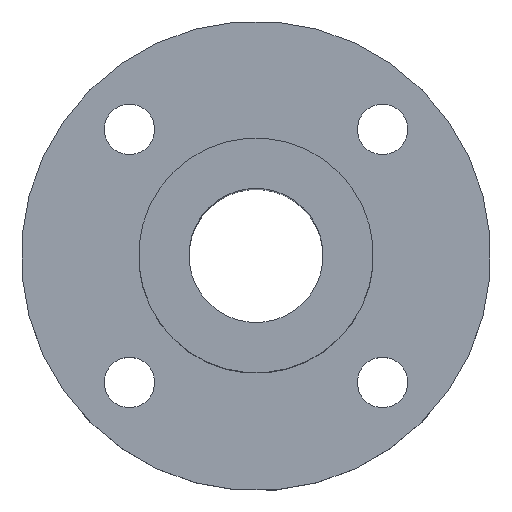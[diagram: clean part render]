
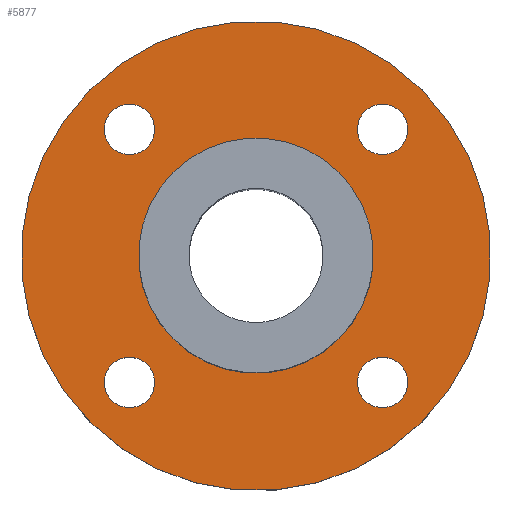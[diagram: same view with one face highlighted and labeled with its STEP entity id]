
A CAD part, top view. The second image highlights one B-rep face of the part: STEP entity #5877.
In plain terms, the highlighted planar face has unit normal (0, 0, 1).
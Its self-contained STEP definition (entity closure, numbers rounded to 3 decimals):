
#111=CIRCLE('',#6246,10.5);
#115=CIRCLE('',#6254,21.);
#116=CIRCLE('',#6256,2.25);
#117=CIRCLE('',#6257,2.25);
#118=CIRCLE('',#6258,2.25);
#119=CIRCLE('',#6259,2.25);
#525=ORIENTED_EDGE('',*,*,#2215,.F.);
#526=ORIENTED_EDGE('',*,*,#2216,.F.);
#527=ORIENTED_EDGE('',*,*,#2217,.F.);
#528=ORIENTED_EDGE('',*,*,#2218,.F.);
#529=ORIENTED_EDGE('',*,*,#2210,.T.);
#530=ORIENTED_EDGE('',*,*,#2214,.T.);
#2210=EDGE_CURVE('',#3058,#3058,#111,.F.);
#2214=EDGE_CURVE('',#3062,#3062,#115,.T.);
#2215=EDGE_CURVE('',#3063,#3063,#116,.T.);
#2216=EDGE_CURVE('',#3064,#3064,#117,.T.);
#2217=EDGE_CURVE('',#3065,#3065,#118,.T.);
#2218=EDGE_CURVE('',#3066,#3066,#119,.T.);
#3058=VERTEX_POINT('',#9269);
#3062=VERTEX_POINT('',#9281);
#3063=VERTEX_POINT('',#9284);
#3064=VERTEX_POINT('',#9286);
#3065=VERTEX_POINT('',#9288);
#3066=VERTEX_POINT('',#9290);
#4826=EDGE_LOOP('',(#525));
#4827=EDGE_LOOP('',(#526));
#4828=EDGE_LOOP('',(#527));
#4829=EDGE_LOOP('',(#528));
#4830=EDGE_LOOP('',(#529));
#4831=EDGE_LOOP('',(#530));
#5244=FACE_BOUND('',#4826,.T.);
#5245=FACE_BOUND('',#4827,.T.);
#5246=FACE_BOUND('',#4828,.T.);
#5247=FACE_BOUND('',#4829,.T.);
#5248=FACE_BOUND('',#4830,.T.);
#5249=FACE_BOUND('',#4831,.T.);
#5604=PLANE('',#6255);
#5877=ADVANCED_FACE('',(#5244,#5245,#5246,#5247,#5248,#5249),#5604,.T.);
#6246=AXIS2_PLACEMENT_3D('',#9268,#6796,#6797);
#6254=AXIS2_PLACEMENT_3D('',#9280,#6812,#6813);
#6255=AXIS2_PLACEMENT_3D('',#9282,#6814,#6815);
#6256=AXIS2_PLACEMENT_3D('',#9283,#6816,#6817);
#6257=AXIS2_PLACEMENT_3D('',#9285,#6818,#6819);
#6258=AXIS2_PLACEMENT_3D('',#9287,#6820,#6821);
#6259=AXIS2_PLACEMENT_3D('',#9289,#6822,#6823);
#6796=DIRECTION('',(0.,0.,1.));
#6797=DIRECTION('',(0.707,-0.707,0.));
#6812=DIRECTION('',(0.,0.,1.));
#6813=DIRECTION('',(0.707,-0.707,0.));
#6814=DIRECTION('',(0.,0.,1.));
#6815=DIRECTION('',(0.707,-0.707,0.));
#6816=DIRECTION('',(0.,0.,1.));
#6817=DIRECTION('',(0.707,-0.707,0.));
#6818=DIRECTION('',(0.,0.,1.));
#6819=DIRECTION('',(0.707,-0.707,0.));
#6820=DIRECTION('',(0.,0.,1.));
#6821=DIRECTION('',(0.707,-0.707,0.));
#6822=DIRECTION('',(0.,0.,1.));
#6823=DIRECTION('',(0.707,-0.707,0.));
#9268=CARTESIAN_POINT('',(0.,0.,0.));
#9269=CARTESIAN_POINT('',(7.425,-7.425,0.));
#9280=CARTESIAN_POINT('',(0.,0.,0.));
#9281=CARTESIAN_POINT('',(14.849,-14.849,0.));
#9282=CARTESIAN_POINT('',(0.,0.,0.));
#9283=CARTESIAN_POINT('',(11.314,11.314,0.));
#9284=CARTESIAN_POINT('',(12.905,9.723,0.));
#9285=CARTESIAN_POINT('',(-11.314,11.314,0.));
#9286=CARTESIAN_POINT('',(-9.723,9.723,0.));
#9287=CARTESIAN_POINT('',(-11.314,-11.314,0.));
#9288=CARTESIAN_POINT('',(-9.723,-12.905,0.));
#9289=CARTESIAN_POINT('',(11.314,-11.314,0.));
#9290=CARTESIAN_POINT('',(12.905,-12.905,0.));
